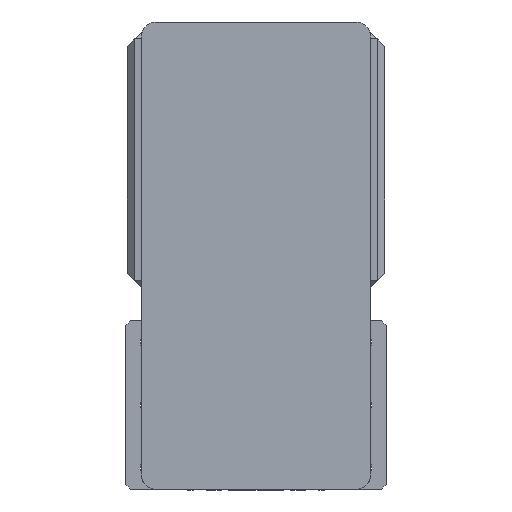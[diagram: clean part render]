
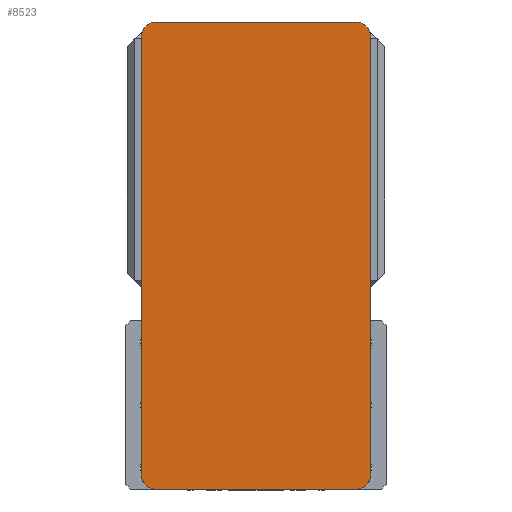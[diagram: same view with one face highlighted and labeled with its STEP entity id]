
A CAD part, left-side view. The second image highlights one B-rep face of the part: STEP entity #8523.
In plain terms, the highlighted planar face has unit normal (-1, 0, 0) as drawn and (0, 0, 1) by its records, which use the part's own axes.
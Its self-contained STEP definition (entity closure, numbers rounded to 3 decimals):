
#642 = DIRECTION ( 'NONE',  ( 0., 1., 0. ) ) ;
#683 = VERTEX_POINT ( 'NONE', #3960 ) ;
#767 = CARTESIAN_POINT ( 'NONE',  ( 65., 152.5, 105. ) ) ;
#1033 = CARTESIAN_POINT ( 'NONE',  ( 65., 142.5, 105. ) ) ;
#1273 = ORIENTED_EDGE ( 'NONE', *, *, #3752, .T. ) ;
#1806 = DIRECTION ( 'NONE',  ( 0., 0., 1. ) ) ;
#1833 = AXIS2_PLACEMENT_3D ( 'NONE', #9760, #4791, #10617 ) ;
#1860 = DIRECTION ( 'NONE',  ( 1., 0., 0. ) ) ;
#2039 = ORIENTED_EDGE ( 'NONE', *, *, #7049, .T. ) ;
#2058 = CARTESIAN_POINT ( 'NONE',  ( 65., -152.5, 105. ) ) ;
#2118 = VECTOR ( 'NONE', #9419, 1000. ) ;
#2203 = CIRCLE ( 'NONE', #9216, 10. ) ;
#2296 = VECTOR ( 'NONE', #5848, 1000. ) ;
#2527 = VERTEX_POINT ( 'NONE', #9903 ) ;
#2546 = ORIENTED_EDGE ( 'NONE', *, *, #4326, .T. ) ;
#2722 = CARTESIAN_POINT ( 'NONE',  ( -75., -152.5, 105. ) ) ;
#3025 = LINE ( 'NONE', #4797, #4977 ) ;
#3046 = VERTEX_POINT ( 'NONE', #7358 ) ;
#3081 = PLANE ( 'NONE',  #5843 ) ;
#3127 = EDGE_CURVE ( 'NONE', #683, #7457, #4433, .T. ) ;
#3645 = DIRECTION ( 'NONE',  ( 0., 0., 1. ) ) ;
#3651 = VERTEX_POINT ( 'NONE', #7597 ) ;
#3752 = EDGE_CURVE ( 'NONE', #2527, #683, #2203, .T. ) ;
#3807 = ORIENTED_EDGE ( 'NONE', *, *, #3127, .T. ) ;
#3960 = CARTESIAN_POINT ( 'NONE',  ( -75., 142.5, 105. ) ) ;
#4197 = ORIENTED_EDGE ( 'NONE', *, *, #8132, .T. ) ;
#4219 = LINE ( 'NONE', #2722, #8357 ) ;
#4326 = EDGE_CURVE ( 'NONE', #7457, #3651, #8048, .T. ) ;
#4433 = LINE ( 'NONE', #6692, #2296 ) ;
#4441 = CARTESIAN_POINT ( 'NONE',  ( -75., 152.5, 105. ) ) ;
#4791 = DIRECTION ( 'NONE',  ( 0., 0., 1. ) ) ;
#4797 = CARTESIAN_POINT ( 'NONE',  ( 75., 152.5, 105. ) ) ;
#4977 = VECTOR ( 'NONE', #642, 1000. ) ;
#5238 = ORIENTED_EDGE ( 'NONE', *, *, #10565, .T. ) ;
#5245 = CARTESIAN_POINT ( 'NONE',  ( -75., -142.5, 105. ) ) ;
#5565 = DIRECTION ( 'NONE',  ( 1., 0., 0. ) ) ;
#5843 = AXIS2_PLACEMENT_3D ( 'NONE', #10539, #10577, #5565 ) ;
#5848 = DIRECTION ( 'NONE',  ( 0., -1., 0. ) ) ;
#5956 = EDGE_LOOP ( 'NONE', ( #10178, #4197, #2039, #9261, #5238, #1273, #3807, #2546 ) ) ;
#6414 = CIRCLE ( 'NONE', #8951, 10. ) ;
#6528 = AXIS2_PLACEMENT_3D ( 'NONE', #6774, #1806, #7617 ) ;
#6654 = EDGE_CURVE ( 'NONE', #3651, #9914, #4219, .T. ) ;
#6692 = CARTESIAN_POINT ( 'NONE',  ( -75., 152.5, 105. ) ) ;
#6774 = CARTESIAN_POINT ( 'NONE',  ( -65., -142.5, 105. ) ) ;
#6830 = DIRECTION ( 'NONE',  ( 0., 0., 1. ) ) ;
#7049 = EDGE_CURVE ( 'NONE', #10276, #3046, #3025, .T. ) ;
#7112 = CIRCLE ( 'NONE', #1833, 10. ) ;
#7358 = CARTESIAN_POINT ( 'NONE',  ( 75., 142.5, 105. ) ) ;
#7407 = CARTESIAN_POINT ( 'NONE',  ( 75., -142.5, 105. ) ) ;
#7457 = VERTEX_POINT ( 'NONE', #5245 ) ;
#7597 = CARTESIAN_POINT ( 'NONE',  ( -65., -152.5, 105. ) ) ;
#7617 = DIRECTION ( 'NONE',  ( 1., 0., 0. ) ) ;
#8048 = CIRCLE ( 'NONE', #6528, 10. ) ;
#8132 = EDGE_CURVE ( 'NONE', #9914, #10276, #7112, .T. ) ;
#8218 = VERTEX_POINT ( 'NONE', #767 ) ;
#8357 = VECTOR ( 'NONE', #8526, 1000. ) ;
#8523 = ADVANCED_FACE ( 'NONE', ( #10111 ), #3081, .T. ) ;
#8526 = DIRECTION ( 'NONE',  ( 1., 0., 0. ) ) ;
#8619 = CARTESIAN_POINT ( 'NONE',  ( -65., 142.5, 105. ) ) ;
#8951 = AXIS2_PLACEMENT_3D ( 'NONE', #1033, #6830, #1860 ) ;
#9216 = AXIS2_PLACEMENT_3D ( 'NONE', #8619, #3645, #9460 ) ;
#9261 = ORIENTED_EDGE ( 'NONE', *, *, #9749, .T. ) ;
#9419 = DIRECTION ( 'NONE',  ( -1., 0., 0. ) ) ;
#9460 = DIRECTION ( 'NONE',  ( 1., 0., 0. ) ) ;
#9749 = EDGE_CURVE ( 'NONE', #3046, #8218, #6414, .T. ) ;
#9760 = CARTESIAN_POINT ( 'NONE',  ( 65., -142.5, 105. ) ) ;
#9903 = CARTESIAN_POINT ( 'NONE',  ( -65., 152.5, 105. ) ) ;
#9914 = VERTEX_POINT ( 'NONE', #2058 ) ;
#10111 = FACE_OUTER_BOUND ( 'NONE', #5956, .T. ) ;
#10178 = ORIENTED_EDGE ( 'NONE', *, *, #6654, .T. ) ;
#10276 = VERTEX_POINT ( 'NONE', #7407 ) ;
#10539 = CARTESIAN_POINT ( 'NONE',  ( 0., 0., 105. ) ) ;
#10565 = EDGE_CURVE ( 'NONE', #8218, #2527, #10744, .T. ) ;
#10577 = DIRECTION ( 'NONE',  ( 0., 0., 1. ) ) ;
#10617 = DIRECTION ( 'NONE',  ( 1., 0., 0. ) ) ;
#10744 = LINE ( 'NONE', #4441, #2118 ) ;
